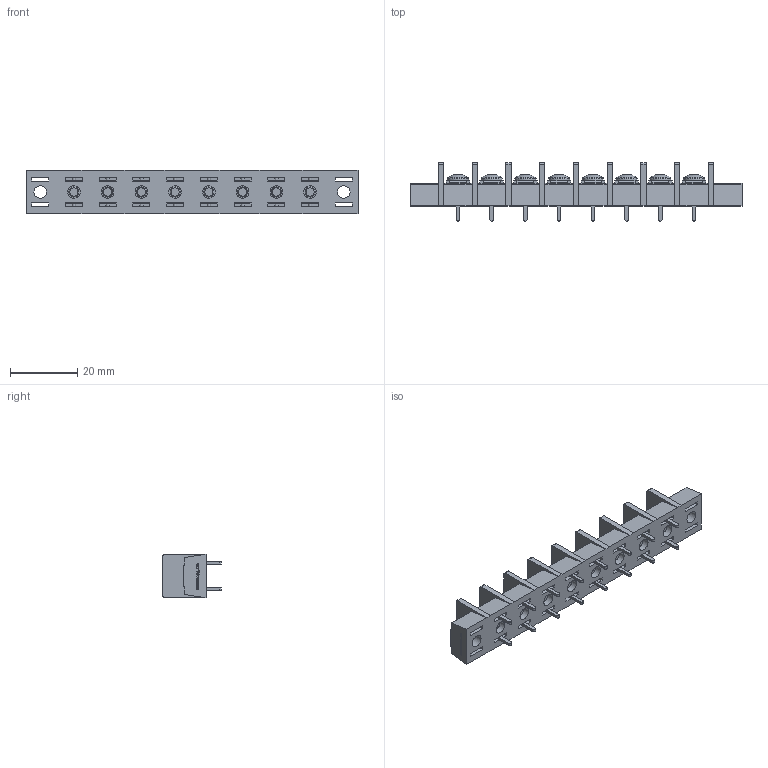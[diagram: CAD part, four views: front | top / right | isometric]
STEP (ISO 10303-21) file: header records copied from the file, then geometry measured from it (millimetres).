
FILE_DESCRIPTION(/* description */ ('Alibre Inc.'),/* implementation_level */ '2;1');
FILE_NAME(/* name */ 'export0',/* time_stamp */ '2015-10-23T18:51:59+09:00',/* author */ (''),/* organization */ (''),/* preprocessor_version */ 'ST-DEVELOPER v14',/* originating_system */ 'Alibre',/* authorisation */ '');
FILE_SCHEMA (('CONFIG_CONTROL_DESIGN'));
Length unit declared in the file: centimetre
Products named in the file (1): ID_1
Bounding box: 98.4 x 17.3 x 12.8 mm (x, y, z)
Volume: 8606.1 mm3; surface area: 10080.3 mm2
Topology: 1 solids, 137 shells, 2692 faces, 6918 edges, 4574 vertices
Faces by surface type: plane 2014, bspline 520, cylinder 94, cone 40, torus 16, sphere 8
Full cylindrical faces by diameter (mm): 3 x16, 3.7 x10, 4.6 x10, 6.3 x8
Entity records: 77947 total; most frequent: CARTESIAN_POINT 18783, ORIENTED_EDGE 13680, DIRECTION 8198, EDGE_CURVE 6840, VECTOR 5266, LINE 5266, VERTEX_POINT 4564, EDGE_LOOP 2958
